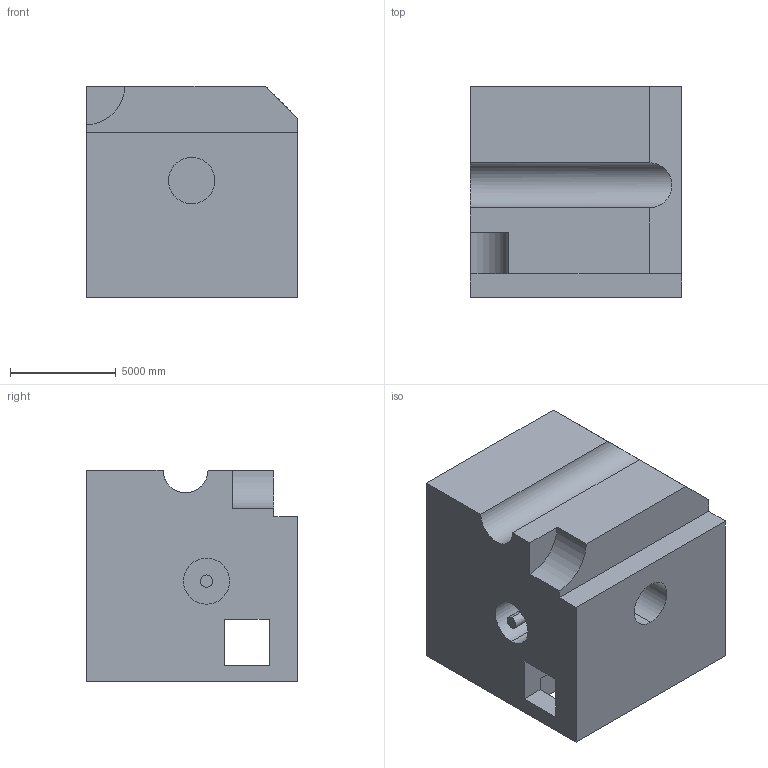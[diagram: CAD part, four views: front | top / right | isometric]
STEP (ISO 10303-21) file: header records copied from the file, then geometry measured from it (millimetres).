
FILE_DESCRIPTION (( 'STEP AP203' ), '1' );
FILE_NAME ('1872.STEP', '2022-08-25T16:16:27', ( 'user' ), ( '' ), 'SwSTEP 2.0', 'SolidWorks 2021', '' );
FILE_SCHEMA (( 'CONFIG_CONTROL_DESIGN' ));
Length unit declared in the file: centimetre
Products named in the file (1): 1872
Bounding box: 10000 x 10000 x 10000 mm (x, y, z)
Volume: 861472501387.1 mm3; surface area: 747737296.9 mm2
Topology: 1 solids, 1 shells, 35 faces, 90 edges, 60 vertices
Faces by surface type: plane 27, cylinder 8
Entity records: 1144 total; most frequent: CARTESIAN_POINT 189, ORIENTED_EDGE 180, DIRECTION 176, EDGE_CURVE 90, LINE 74, VECTOR 74, VERTEX_POINT 60, AXIS2_PLACEMENT_3D 51
